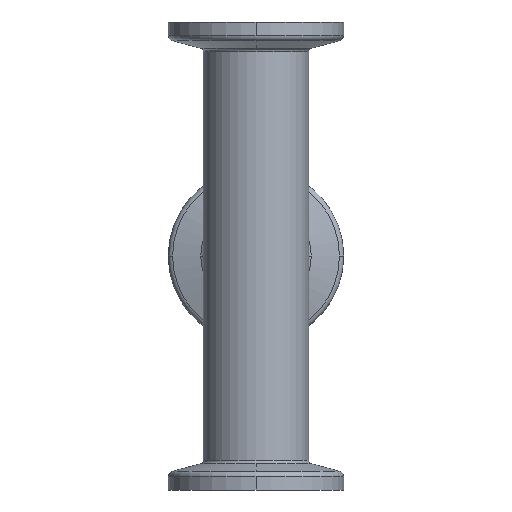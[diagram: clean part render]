
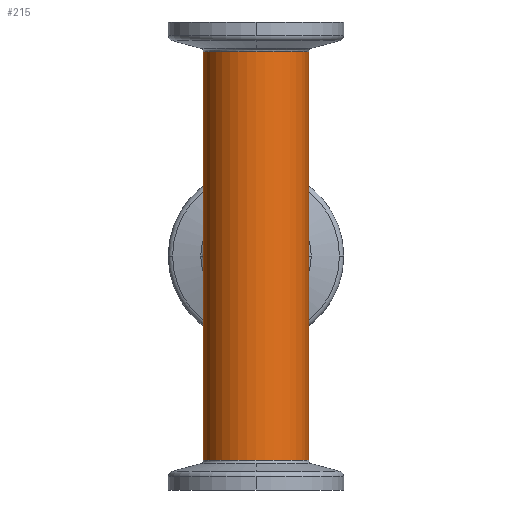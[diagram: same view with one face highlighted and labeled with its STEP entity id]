
A CAD part, front view. The second image highlights one B-rep face of the part: STEP entity #215.
In plain terms, the highlighted cylindrical face has radius 9 mm (diameter 18 mm), a partial arc.
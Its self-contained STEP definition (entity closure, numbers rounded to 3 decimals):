
#130=CARTESIAN_POINT('',(-9.,0.,-0.932));
#131=VERTEX_POINT('',#130);
#132=CARTESIAN_POINT('',(-9.,0.0,34.0));
#133=VERTEX_POINT('',#132);
#134=CARTESIAN_POINT('',(-9.,0.,-0.932));
#135=DIRECTION('',(0.0,0.0,1.0));
#136=VECTOR('',#135,34.932);
#137=LINE('',#134,#136);
#138=EDGE_CURVE('',#131,#133,#137,.T.);
#140=CARTESIAN_POINT('',(9.0,0.0,34.0));
#141=VERTEX_POINT('',#140);
#149=CARTESIAN_POINT('',(9.,0.,-0.932));
#150=VERTEX_POINT('',#149);
#151=CARTESIAN_POINT('',(9.0,0.0,34.0));
#152=DIRECTION('',(0.0,0.0,-1.0));
#153=VECTOR('',#152,34.932);
#154=LINE('',#151,#153);
#155=EDGE_CURVE('',#141,#150,#154,.T.);
#167=CARTESIAN_POINT('',(0.0,0.0,0.0));
#168=DIRECTION('',(0.0,0.0,1.0));
#169=DIRECTION('',(-1.0,0.0,0.0));
#170=AXIS2_PLACEMENT_3D('',#167,#168,#169);
#171=CYLINDRICAL_SURFACE('',#170,9.0);
#172=CARTESIAN_POINT('',(-9.,0.,68.932));
#173=VERTEX_POINT('',#172);
#174=CARTESIAN_POINT('',(-9.,0.0,34.0));
#175=DIRECTION('',(0.0,0.0,1.0));
#176=VECTOR('',#175,34.932);
#177=LINE('',#174,#176);
#178=EDGE_CURVE('',#133,#173,#177,.T.);
#179=ORIENTED_EDGE('',*,*,#178,.F.);
#180=ORIENTED_EDGE('',*,*,#138,.F.);
#181=CARTESIAN_POINT('',(0.0,-9.,-0.932));
#182=VERTEX_POINT('',#181);
#183=CARTESIAN_POINT('',(0.0,0.0,-0.932));
#184=DIRECTION('',(0.0,0.0,-1.0));
#185=DIRECTION('',(0.0,1.0,0.0));
#186=AXIS2_PLACEMENT_3D('',#183,#184,#185);
#187=CIRCLE('',#186,9.);
#188=EDGE_CURVE('',#182,#131,#187,.T.);
#189=ORIENTED_EDGE('',*,*,#188,.F.);
#190=CARTESIAN_POINT('',(0.0,0.0,-0.932));
#191=DIRECTION('',(0.0,0.0,-1.0));
#192=DIRECTION('',(0.0,1.0,0.0));
#193=AXIS2_PLACEMENT_3D('',#190,#191,#192);
#194=CIRCLE('',#193,9.);
#195=EDGE_CURVE('',#150,#182,#194,.T.);
#196=ORIENTED_EDGE('',*,*,#195,.F.);
#197=ORIENTED_EDGE('',*,*,#155,.F.);
#198=CARTESIAN_POINT('',(9.,0.,68.932));
#199=VERTEX_POINT('',#198);
#200=CARTESIAN_POINT('',(9.,0.,68.932));
#201=DIRECTION('',(0.0,0.0,-1.0));
#202=VECTOR('',#201,34.932);
#203=LINE('',#200,#202);
#204=EDGE_CURVE('',#199,#141,#203,.T.);
#205=ORIENTED_EDGE('',*,*,#204,.F.);
#206=CARTESIAN_POINT('',(0.0,0.0,68.932));
#207=DIRECTION('',(0.0,0.0,1.0));
#208=DIRECTION('',(0.0,-1.0,0.0));
#209=AXIS2_PLACEMENT_3D('',#206,#207,#208);
#210=CIRCLE('',#209,9.);
#211=EDGE_CURVE('',#173,#199,#210,.T.);
#212=ORIENTED_EDGE('',*,*,#211,.F.);
#213=EDGE_LOOP('',(#179,#180,#189,#196,#197,#205,#212));
#214=FACE_OUTER_BOUND('',#213,.T.);
#215=ADVANCED_FACE('',(#214),#171,.T.);
